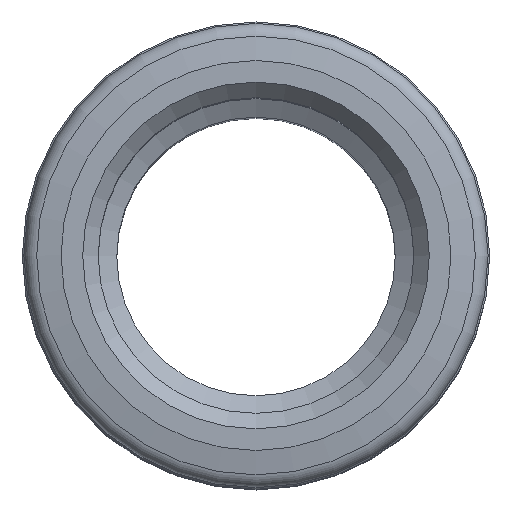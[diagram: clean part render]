
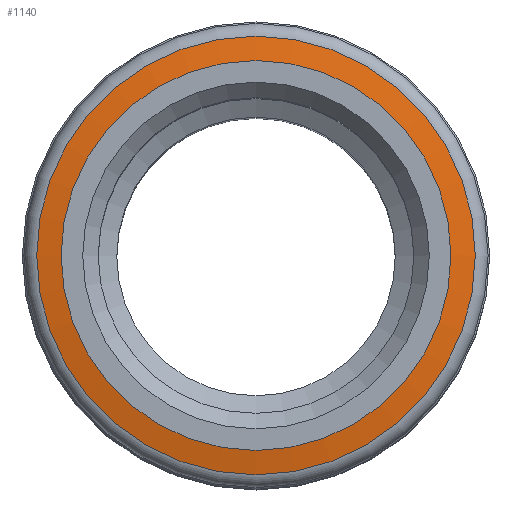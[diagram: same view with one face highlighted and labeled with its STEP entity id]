
A CAD part, top view. The second image highlights one B-rep face of the part: STEP entity #1140.
In plain terms, the highlighted conical face has half-angle 80 degrees and reference radius 7.087 mm.
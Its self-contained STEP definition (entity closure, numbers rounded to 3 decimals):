
#1140=ADVANCED_FACE('', (#1150,#1160), #1170, .T.);
#3710=AXIS2_PLACEMENT_3D('Ax2Pl3d', #3720, #3730, #3740);
#3750=AXIS2_PLACEMENT_3D('Ax2Pl3d', #3760, #3770, #3780);
#3790=AXIS2_PLACEMENT_3D('Ax2Pl3d', #3800, #3810, #3820);
#3720=CARTESIAN_POINT('HicPkt', (16.995,12.529,
51.39));
#4760=CARTESIAN_POINT('', (9.908,12.529,51.39));
#3760=CARTESIAN_POINT('HicPkt', (16.995,12.529,
51.39));
#3800=CARTESIAN_POINT('HicPkt', (16.995,12.529,
51.529));
#4770=CARTESIAN_POINT('', (10.695,12.529,51.529));
#5110=CIRCLE('Circle', #3710, 7.087);
#5120=CIRCLE('Circle', #3790, 6.3);
#1170=CONICAL_SURFACE('Kegel', #3750, 7.087, 
1.396);
#3730=DIRECTION('Axis', (0.,0.,-1.));
#3740=DIRECTION('RefDirection', (-1.,-0.,0.));
#3770=DIRECTION('Axis', (0.,0.,-1.));
#3780=DIRECTION('RefDirection', (-1.,-0.,0.));
#3810=DIRECTION('Axis', (0.,0.,-1.));
#3820=DIRECTION('RefDirection', (-1.,-0.,0.));
#6870=EDGE_CURVE('', #6880, #6880, #5110, .T.);
#6890=EDGE_CURVE('', #6900, #6900, #5120, .T.);
#8090=EDGE_LOOP('Edge_loop', (#8100));
#8110=EDGE_LOOP('Edge_loop', (#8120));
#1160=FACE_BOUND('', #8110, .T.);
#1150=FACE_OUTER_BOUND('Face_outer_bound', #8090, .T.);
#8100=ORIENTED_EDGE('', *, *, #6890, .T.);
#8120=ORIENTED_EDGE('', *, *, #6870, .F.);
#6880=VERTEX_POINT('', #4760);
#6900=VERTEX_POINT('', #4770);
